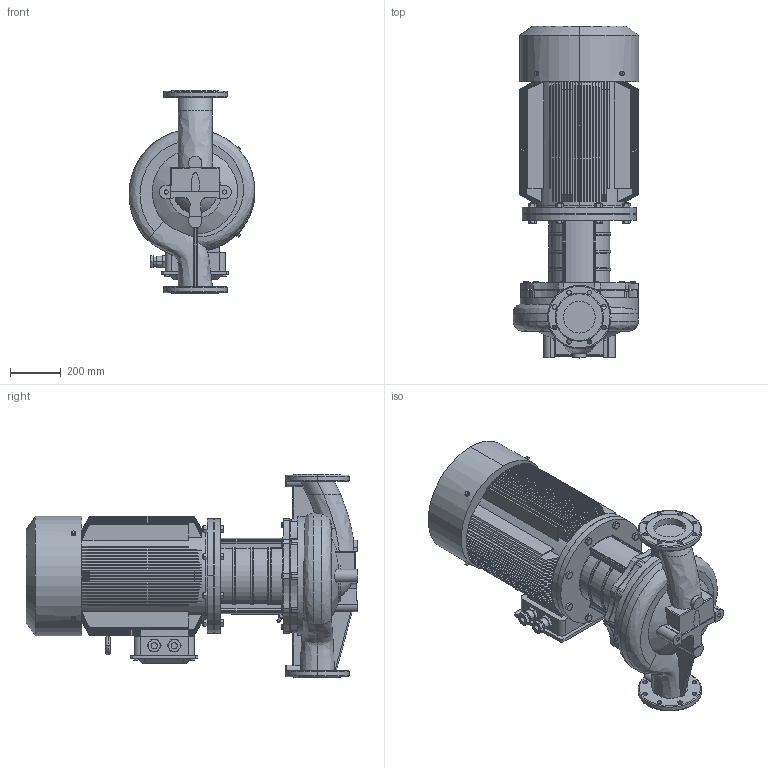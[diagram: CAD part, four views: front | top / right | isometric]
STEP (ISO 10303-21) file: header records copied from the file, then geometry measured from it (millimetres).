
FILE_DESCRIPTION(/* description */ (''),/* implementation_level */ '2;1');
FILE_NAME(/* name */ 'TD125-48-4安装尺寸图.stp',/* time_stamp */ '2026-09-07T16:40:24+08:00',/* author */ (''),/* organization */ (''),/* preprocessor_version */ 'ST-DEVELOPER v16.7',/* originating_system */ 'SIEMENS PLM Software NX 1847',/* authorisation */ '');
FILE_SCHEMA (('AP203_CONFIGURATION_CONTROLLED_3D_DESIGN_OF_MECHANICAL_PARTS_AND_ASSEMBLIES_MIM_LF { 1 0 10303 403 2 1 2}'));
Length unit declared in the file: millimetre
Products named in the file (1): Admi55F8EAC4z4j1
Bounding box: 496.2 x 1307 x 800 mm (x, y, z)
Volume: 171203645.3 mm3; surface area: 6954799.7 mm2
Topology: 1 solids, 12 shells, 1807 faces, 4438 edges, 2707 vertices
Faces by surface type: plane 684, cone 485, cylinder 484, torus 81, sphere 40, bspline 33
Full cylindrical faces by diameter (mm): 8 x2, 10 x1, 11.701 x10, 12.9 x1, 16.63 x10, 17.623 x16, 25.34 x8, 340 x1, 350 x1, 450 x1
Entity records: 61134 total; most frequent: CARTESIAN_POINT 20257, ORIENTED_EDGE 8564, DIRECTION 8336, EDGE_CURVE 4282, AXIS2_PLACEMENT_3D 3396, VERTEX_POINT 2669, EDGE_LOOP 2049, ADVANCED_FACE 1807
